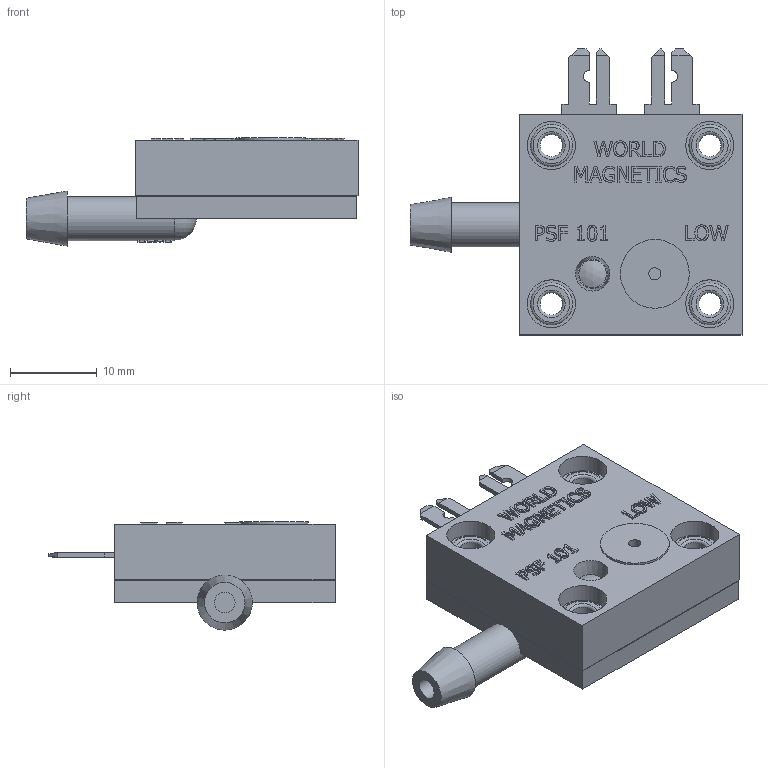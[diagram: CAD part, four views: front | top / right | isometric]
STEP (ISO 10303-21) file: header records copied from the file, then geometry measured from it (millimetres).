
FILE_DESCRIPTION((''),'2;1');
FILE_NAME('G:\DRAWINGS\SWITCH\INVENTOR DRAWINGS\WORLD MAGNETICS SWITCH\WM SALES STP FILES\885X.stp','2011-06-14T10:31:22',('dale'),(''),'Autodesk Inventor 2009','Autodesk Inventor 2009','');
FILE_SCHEMA(('AUTOMOTIVE_DESIGN { 1 0 10303 214 1 1 1 1 }'));
Length unit declared in the file: inch
Products named in the file (7): 885X; 60326-STP; 60094-STP; 60093-STP; 60817-STP; 60193 - .251 THK ROLLED; 60099-STP
Assembly tree (9 placements, depth 2):
  885X
    60326-STP
    60094-STP
    60093-STP
    60817-STP
    60193 - .251 THK ROLLED  x4
    60099-STP
Bounding box: 38.23 x 32.94 x 12.47 mm (x, y, z)
Volume: 5707.7 mm3; surface area: 5215.6 mm2
Topology: 9 solids, 9 shells, 574 faces, 1464 edges, 966 vertices
Faces by surface type: plane 341, bspline 181, cylinder 31, torus 16, cone 3, sphere 2
Full cylindrical faces by diameter (mm): 2.362 x1, 2.565 x4, 3.073 x4, 3.175 x1, 4.572 x4, 4.826 x4, 5.08 x5, 7.925 x1
Entity records: 23487 total; most frequent: CARTESIAN_POINT 11649, ORIENTED_EDGE 2630, DIRECTION 1811, EDGE_CURVE 1315, VERTEX_POINT 898, VECTOR 895, LINE 895, EDGE_LOOP 621
